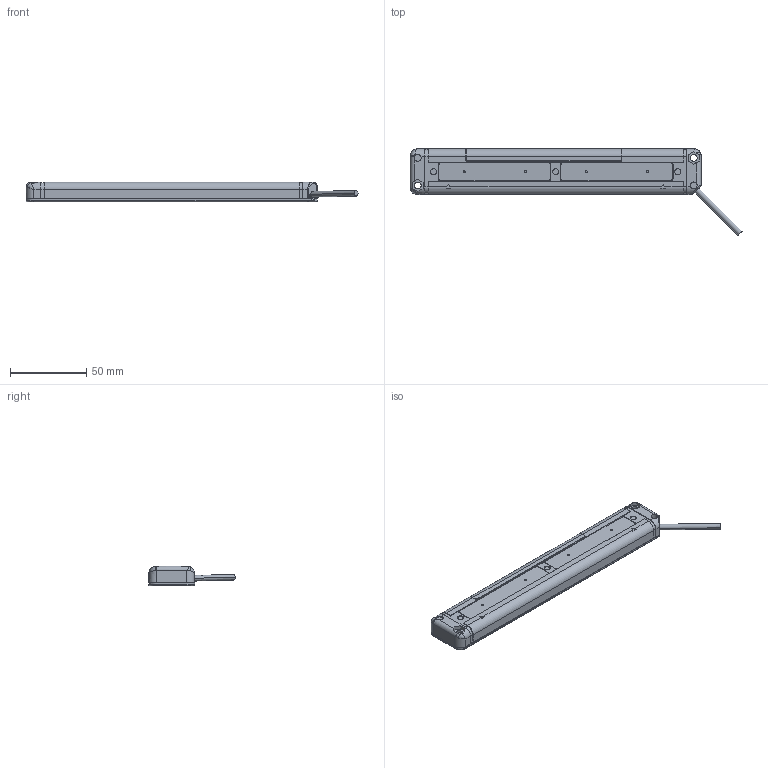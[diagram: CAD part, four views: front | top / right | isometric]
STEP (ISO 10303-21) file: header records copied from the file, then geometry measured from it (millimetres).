
FILE_DESCRIPTION((''),'2;1');
FILE_NAME('SA2-8EYE_JIESHOU_ASM','2018-10-19T11:17:52',('Administrator'),(''),'CREO PARAMETRIC BY PTC INC, 2016390','CREO PARAMETRIC BY PTC INC, 2016390','');
FILE_SCHEMA(('AUTOMOTIVE_DESIGN { 1 0 10303 214 1 1 1 1 }'));
Length unit declared in the file: millimetre
Products named in the file (8): ADMI89A7B59F_147; 072-1_6974_1; ADMID3172S3O_4; ADMI89A7B59F_15; PCB_8EYES_JIESHOU; LED_8EYES12YES; GUANGMINDIANZHU; SA2-8EYE_JIESHOU_ASM
Assembly tree (16 placements, depth 2):
  SA2-8EYE_JIESHOU_ASM
    ADMI89A7B59F_147
    072-1_6974_1
    ADMID3172S3O_4  x2
    ADMI89A7B59F_15
    PCB_8EYES_JIESHOU
    LED_8EYES12YES  x2
    GUANGMINDIANZHU  x8
Bounding box: 217.05 x 56.55 x 13.05 mm (x, y, z)
Volume: 39980.9 mm3; surface area: 52297 mm2
Topology: 16 solids, 16 shells, 1639 faces, 4829 edges, 3287 vertices
Faces by surface type: plane 874, cylinder 509, cone 170, torus 39, sphere 38, bspline 9
Entity records: 59567 total; most frequent: CARTESIAN_POINT 12847, ORIENTED_EDGE 8702, DIRECTION 7116, EDGE_CURVE 4351, VERTEX_POINT 2991, PRESENTATION_STYLE_ASSIGNMENT 2601, STYLED_ITEM 2601, CURVE_STYLE 2597
